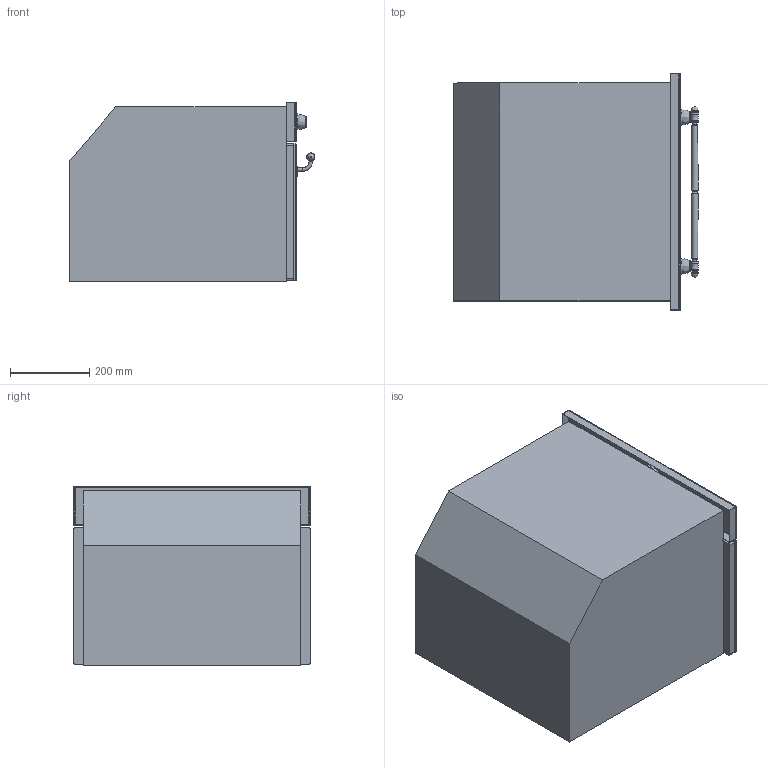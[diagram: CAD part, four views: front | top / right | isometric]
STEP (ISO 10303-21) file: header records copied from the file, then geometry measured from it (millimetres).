
FILE_DESCRIPTION(/* description */ (''),/* implementation_level */ '2;1');
FILE_NAME(/* name */ 'SF4750VCPO.stp',/* time_stamp */ '2015-11-17T14:06:36+01:00',/* author */ (''),/* organization */ (''),/* preprocessor_version */ 'ST-DEVELOPER v11',/* originating_system */ 'SIEMENS PLM Software NX 7.5',/* authorisation */ '');
FILE_SCHEMA (('AUTOMOTIVE_DESIGN { 1 0 10303 214 1 1 1 1 }'));
Length unit declared in the file: millimetre
Products named in the file (1): FAVE2E3Ayc6e
Bounding box: 620.5 x 597 x 454 mm (x, y, z)
Volume: 133900737.6 mm3; surface area: 2988813.6 mm2
Topology: 19 solids, 19 shells, 338 faces, 811 edges, 521 vertices
Faces by surface type: plane 156, cylinder 95, torus 71, bspline 12, cone 2, sphere 2
Full cylindrical faces by diameter (mm): 8 x2, 8.5 x4, 10 x2, 20 x2, 28 x2, 48 x1, 51.8 x1, 52 x1, 54.8 x1, 55 x1, 57.2 x1
Entity records: 9753 total; most frequent: CARTESIAN_POINT 1808, DIRECTION 1715, ORIENTED_EDGE 1458, EDGE_CURVE 729, AXIS2_PLACEMENT_3D 659, VERTEX_POINT 512, EDGE_LOOP 443, LINE 397
